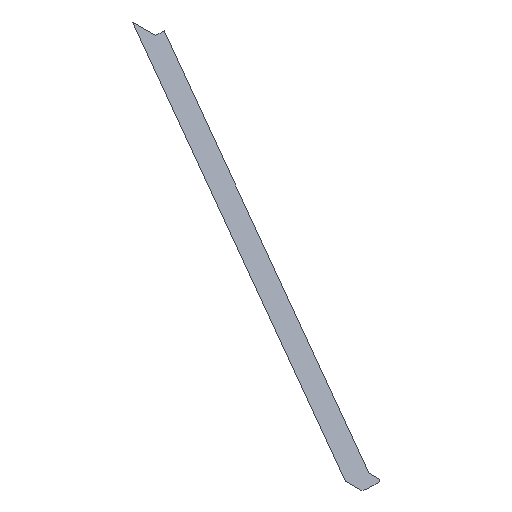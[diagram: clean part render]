
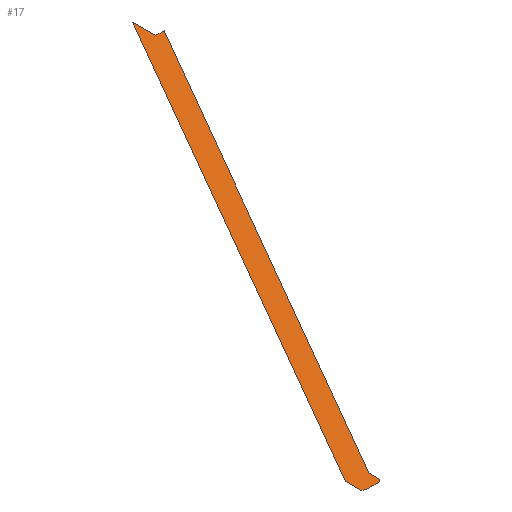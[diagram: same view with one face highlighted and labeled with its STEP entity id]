
A CAD part, isometric view. The second image highlights one B-rep face of the part: STEP entity #17.
In plain terms, the highlighted planar face has unit normal (0, 0, 1).
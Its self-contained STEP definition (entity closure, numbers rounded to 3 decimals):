
#17 = ADVANCED_FACE('',(#18),#32,.T.);
#18 = FACE_BOUND('',#19,.T.);
#19 = EDGE_LOOP('',(#20,#43,#59,#75,#91,#107,#123,#139,#155));
#20 = ORIENTED_EDGE('',*,*,#21,.T.);
#21 = EDGE_CURVE('',#22,#24,#26,.T.);
#22 = VERTEX_POINT('',#23);
#23 = CARTESIAN_POINT('',(415.,5.,0.));
#24 = VERTEX_POINT('',#25);
#25 = CARTESIAN_POINT('',(420.,10.,0.));
#26 = SURFACE_CURVE('',#27,(#31),.PCURVE_S1.);
#27 = LINE('',#28,#29);
#28 = CARTESIAN_POINT('',(415.,5.,0.));
#29 = VECTOR('',#30,1.);
#30 = DIRECTION('',(0.707,0.707,0.));
#31 = PCURVE('',#32,#37);
#32 = PLANE('',#33);
#33 = AXIS2_PLACEMENT_3D('',#34,#35,#36);
#34 = CARTESIAN_POINT('',(702.31,560.559,0.));
#35 = DIRECTION('',(0.,0.,1.));
#36 = DIRECTION('',(1.,0.,0.));
#37 = DEFINITIONAL_REPRESENTATION('',(#38),#42);
#38 = LINE('',#39,#40);
#39 = CARTESIAN_POINT('',(-287.31,-555.559));
#40 = VECTOR('',#41,1.);
#41 = DIRECTION('',(0.707,0.707));
#42 = ( GEOMETRIC_REPRESENTATION_CONTEXT(2) 
PARAMETRIC_REPRESENTATION_CONTEXT() REPRESENTATION_CONTEXT('2D SPACE',''
  ) );
#43 = ORIENTED_EDGE('',*,*,#44,.T.);
#44 = EDGE_CURVE('',#24,#45,#47,.T.);
#45 = VERTEX_POINT('',#46);
#46 = CARTESIAN_POINT('',(420.,31.776,0.));
#47 = SURFACE_CURVE('',#48,(#52),.PCURVE_S1.);
#48 = LINE('',#49,#50);
#49 = CARTESIAN_POINT('',(420.,10.,0.));
#50 = VECTOR('',#51,1.);
#51 = DIRECTION('',(0.,1.,0.));
#52 = PCURVE('',#32,#53);
#53 = DEFINITIONAL_REPRESENTATION('',(#54),#58);
#54 = LINE('',#55,#56);
#55 = CARTESIAN_POINT('',(-282.31,-550.559));
#56 = VECTOR('',#57,1.);
#57 = DIRECTION('',(0.,1.));
#58 = ( GEOMETRIC_REPRESENTATION_CONTEXT(2) 
PARAMETRIC_REPRESENTATION_CONTEXT() REPRESENTATION_CONTEXT('2D SPACE',''
  ) );
#59 = ORIENTED_EDGE('',*,*,#60,.T.);
#60 = EDGE_CURVE('',#45,#61,#63,.T.);
#61 = VERTEX_POINT('',#62);
#62 = CARTESIAN_POINT('',(1021.553,1073.,0.));
#63 = SURFACE_CURVE('',#64,(#68),.PCURVE_S1.);
#64 = LINE('',#65,#66);
#65 = CARTESIAN_POINT('',(420.,31.776,0.));
#66 = VECTOR('',#67,1.);
#67 = DIRECTION('',(0.5,0.866,0.));
#68 = PCURVE('',#32,#69);
#69 = DEFINITIONAL_REPRESENTATION('',(#70),#74);
#70 = LINE('',#71,#72);
#71 = CARTESIAN_POINT('',(-282.31,-528.783));
#72 = VECTOR('',#73,1.);
#73 = DIRECTION('',(0.5,0.866));
#74 = ( GEOMETRIC_REPRESENTATION_CONTEXT(2) 
PARAMETRIC_REPRESENTATION_CONTEXT() REPRESENTATION_CONTEXT('2D SPACE',''
  ) );
#75 = ORIENTED_EDGE('',*,*,#76,.T.);
#76 = EDGE_CURVE('',#61,#77,#79,.T.);
#77 = VERTEX_POINT('',#78);
#78 = CARTESIAN_POINT('',(1004.246,1073.,0.));
#79 = SURFACE_CURVE('',#80,(#84),.PCURVE_S1.);
#80 = LINE('',#81,#82);
#81 = CARTESIAN_POINT('',(1021.553,1073.,0.));
#82 = VECTOR('',#83,1.);
#83 = DIRECTION('',(-1.,0.,0.));
#84 = PCURVE('',#32,#85);
#85 = DEFINITIONAL_REPRESENTATION('',(#86),#90);
#86 = LINE('',#87,#88);
#87 = CARTESIAN_POINT('',(319.242,512.441));
#88 = VECTOR('',#89,1.);
#89 = DIRECTION('',(-1.,0.));
#90 = ( GEOMETRIC_REPRESENTATION_CONTEXT(2) 
PARAMETRIC_REPRESENTATION_CONTEXT() REPRESENTATION_CONTEXT('2D SPACE',''
  ) );
#91 = ORIENTED_EDGE('',*,*,#92,.T.);
#92 = EDGE_CURVE('',#77,#93,#95,.T.);
#93 = VERTEX_POINT('',#94);
#94 = CARTESIAN_POINT('',(1004.246,1123.,0.));
#95 = SURFACE_CURVE('',#96,(#100),.PCURVE_S1.);
#96 = LINE('',#97,#98);
#97 = CARTESIAN_POINT('',(1004.246,1073.,0.));
#98 = VECTOR('',#99,1.);
#99 = DIRECTION('',(0.,1.,0.));
#100 = PCURVE('',#32,#101);
#101 = DEFINITIONAL_REPRESENTATION('',(#102),#106);
#102 = LINE('',#103,#104);
#103 = CARTESIAN_POINT('',(301.936,512.441));
#104 = VECTOR('',#105,1.);
#105 = DIRECTION('',(0.,1.));
#106 = ( GEOMETRIC_REPRESENTATION_CONTEXT(2) 
PARAMETRIC_REPRESENTATION_CONTEXT() REPRESENTATION_CONTEXT('2D SPACE',''
  ) );
#107 = ORIENTED_EDGE('',*,*,#108,.T.);
#108 = EDGE_CURVE('',#93,#109,#111,.T.);
#109 = VERTEX_POINT('',#110);
#110 = CARTESIAN_POINT('',(380.,42.492,0.));
#111 = SURFACE_CURVE('',#112,(#116),.PCURVE_S1.);
#112 = LINE('',#113,#114);
#113 = CARTESIAN_POINT('',(1004.246,1123.,0.));
#114 = VECTOR('',#115,1.);
#115 = DIRECTION('',(-0.5,-0.866,0.));
#116 = PCURVE('',#32,#117);
#117 = DEFINITIONAL_REPRESENTATION('',(#118),#122);
#118 = LINE('',#119,#120);
#119 = CARTESIAN_POINT('',(301.936,562.441));
#120 = VECTOR('',#121,1.);
#121 = DIRECTION('',(-0.5,-0.866));
#122 = ( GEOMETRIC_REPRESENTATION_CONTEXT(2) 
PARAMETRIC_REPRESENTATION_CONTEXT() REPRESENTATION_CONTEXT('2D SPACE',''
  ) );
#123 = ORIENTED_EDGE('',*,*,#124,.T.);
#124 = EDGE_CURVE('',#109,#125,#127,.T.);
#125 = VERTEX_POINT('',#126);
#126 = CARTESIAN_POINT('',(380.,10.,0.));
#127 = SURFACE_CURVE('',#128,(#132),.PCURVE_S1.);
#128 = LINE('',#129,#130);
#129 = CARTESIAN_POINT('',(380.,42.492,0.));
#130 = VECTOR('',#131,1.);
#131 = DIRECTION('',(0.,-1.,0.));
#132 = PCURVE('',#32,#133);
#133 = DEFINITIONAL_REPRESENTATION('',(#134),#138);
#134 = LINE('',#135,#136);
#135 = CARTESIAN_POINT('',(-322.31,-518.067));
#136 = VECTOR('',#137,1.);
#137 = DIRECTION('',(0.,-1.));
#138 = ( GEOMETRIC_REPRESENTATION_CONTEXT(2) 
PARAMETRIC_REPRESENTATION_CONTEXT() REPRESENTATION_CONTEXT('2D SPACE',''
  ) );
#139 = ORIENTED_EDGE('',*,*,#140,.T.);
#140 = EDGE_CURVE('',#125,#141,#143,.T.);
#141 = VERTEX_POINT('',#142);
#142 = CARTESIAN_POINT('',(385.,5.,0.));
#143 = SURFACE_CURVE('',#144,(#148),.PCURVE_S1.);
#144 = LINE('',#145,#146);
#145 = CARTESIAN_POINT('',(380.,10.,0.));
#146 = VECTOR('',#147,1.);
#147 = DIRECTION('',(0.707,-0.707,0.));
#148 = PCURVE('',#32,#149);
#149 = DEFINITIONAL_REPRESENTATION('',(#150),#154);
#150 = LINE('',#151,#152);
#151 = CARTESIAN_POINT('',(-322.31,-550.559));
#152 = VECTOR('',#153,1.);
#153 = DIRECTION('',(0.707,-0.707));
#154 = ( GEOMETRIC_REPRESENTATION_CONTEXT(2) 
PARAMETRIC_REPRESENTATION_CONTEXT() REPRESENTATION_CONTEXT('2D SPACE',''
  ) );
#155 = ORIENTED_EDGE('',*,*,#156,.T.);
#156 = EDGE_CURVE('',#141,#22,#157,.T.);
#157 = SURFACE_CURVE('',#158,(#162),.PCURVE_S1.);
#158 = LINE('',#159,#160);
#159 = CARTESIAN_POINT('',(385.,5.,0.));
#160 = VECTOR('',#161,1.);
#161 = DIRECTION('',(1.,0.,0.));
#162 = PCURVE('',#32,#163);
#163 = DEFINITIONAL_REPRESENTATION('',(#164),#168);
#164 = LINE('',#165,#166);
#165 = CARTESIAN_POINT('',(-317.31,-555.559));
#166 = VECTOR('',#167,1.);
#167 = DIRECTION('',(1.,0.));
#168 = ( GEOMETRIC_REPRESENTATION_CONTEXT(2) 
PARAMETRIC_REPRESENTATION_CONTEXT() REPRESENTATION_CONTEXT('2D SPACE',''
  ) );
